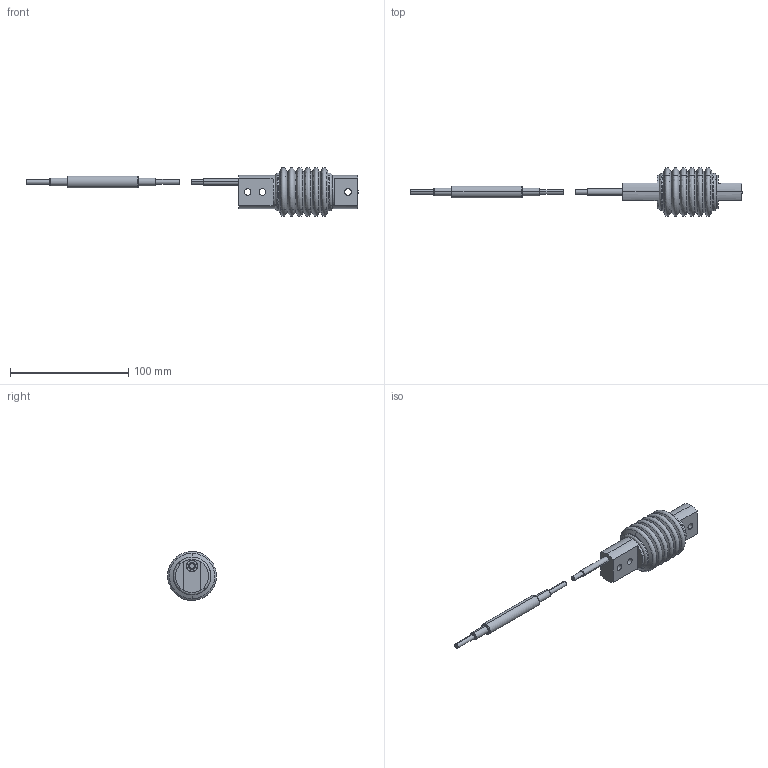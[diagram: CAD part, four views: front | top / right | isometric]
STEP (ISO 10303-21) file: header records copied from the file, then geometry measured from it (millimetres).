
FILE_DESCRIPTION(('STEP AP203'),'1');
FILE_NAME('C:/TPO v2/SharedFS/Outgoing/burster_8511-5200-v010_1rfquc5ukq9htzxc3pd6hs12q.stp','2013-08-26T19:44:28',('TraceParts'),('TraceParts S.A.'),'XStep 1.0',' ',' ');
FILE_SCHEMA(('CONFIG_CONTROL_DESIGN'));
Length unit declared in the file: millimetre
Products named in the file (2): 1; 2
Bounding box: 281.31 x 41.36 x 41.37 mm (x, y, z)
Volume: 82211.2 mm3; surface area: 19020.5 mm2
Topology: 2 solids, 3 shells, 108 faces, 270 edges, 175 vertices
Faces by surface type: cone 34, cylinder 32, plane 24, bspline 16, torus 2
Entity records: 4257 total; most frequent: CARTESIAN_POINT 1534, DIRECTION 599, ORIENTED_EDGE 540, EDGE_CURVE 270, AXIS2_PLACEMENT_3D 254, VERTEX_POINT 175, CIRCLE 160, EDGE_LOOP 123
